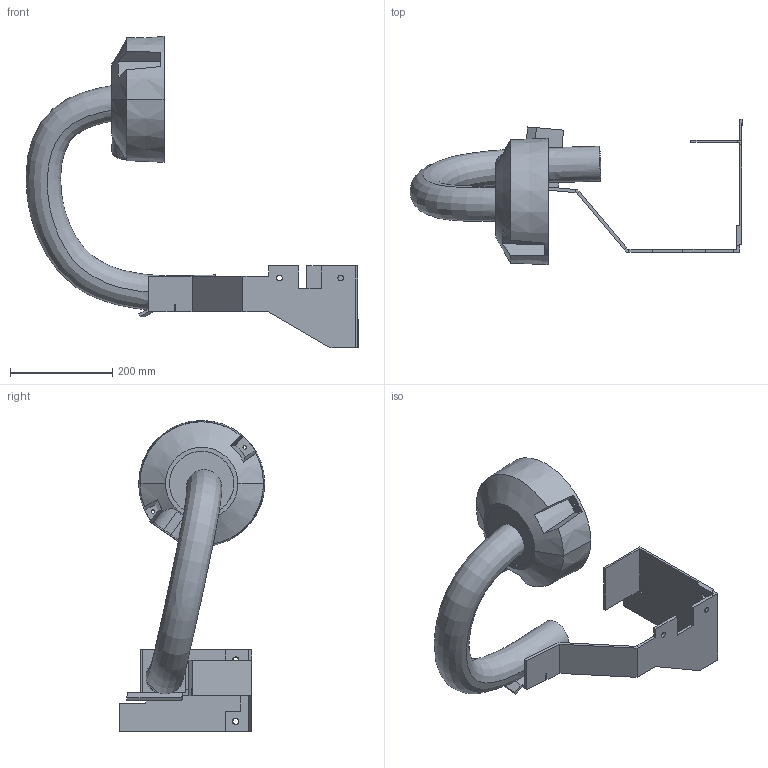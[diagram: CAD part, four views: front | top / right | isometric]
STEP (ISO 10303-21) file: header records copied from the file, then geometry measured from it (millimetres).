
FILE_DESCRIPTION (( 'STEP AP203' ), '1' );
FILE_NAME ('IRB6700-MH6_220-300_IRC5_rev00_LINK03b_CABLE.STEP', '2014-08-27T11:28:05', ( 'ABB' ), ( 'ABB' ), 'SwSTEP 2.0', 'SolidWorks 2012', '' );
FILE_SCHEMA (( 'CONFIG_CONTROL_DESIGN' ));
Length unit declared in the file: millimetre
Products named in the file (1): IRB6700-MH6_220-300_IRC5_rev00_LINK03b_CABLE
Bounding box: 650.35 x 285 x 609.5 mm (x, y, z)
Volume: 7197660.8 mm3; surface area: 521015.4 mm2
Topology: 1 solids, 1 shells, 126 faces, 347 edges, 228 vertices
Faces by surface type: plane 87, cylinder 23, cone 12, bspline 2, torus 2
Entity records: 15838 total; most frequent: CARTESIAN_POINT 12537, ORIENTED_EDGE 694, DIRECTION 632, EDGE_CURVE 347, LINE 246, VECTOR 246, VERTEX_POINT 228, AXIS2_PLACEMENT_3D 193
